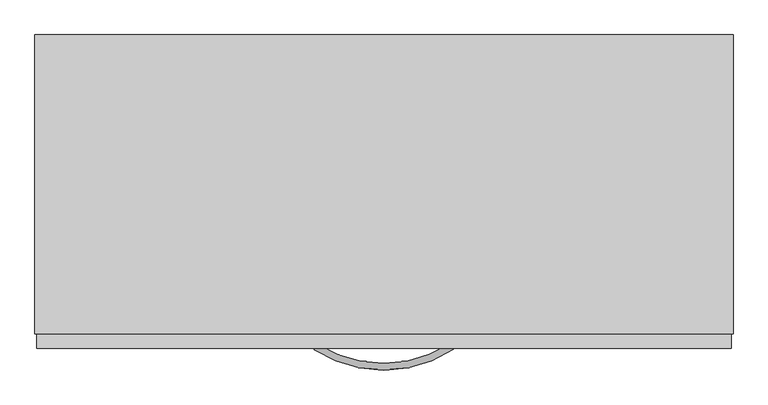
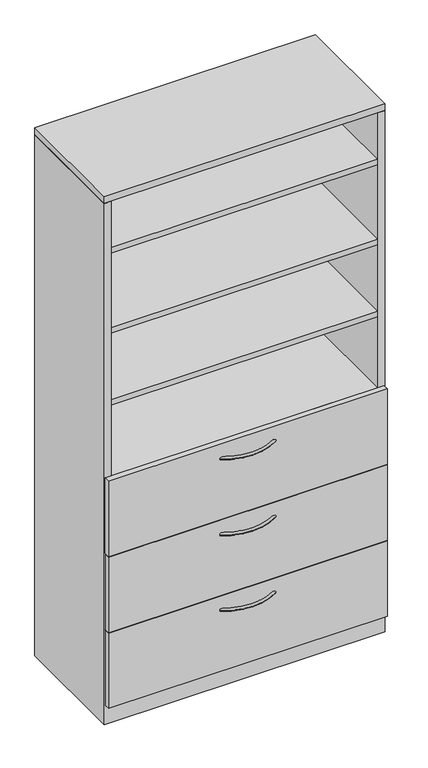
"""IFC4 building model written with IfcOpenShell, lengths in millimetres: furniture geometry, Steelcase - Universal Storage - Cabinet - Combination - Proud Steel : 83 1/2H - Open Cabinet/3 Drawers - 18 7/8D x 42W."""

import ifcopenshell
import ifcopenshell.guid

model = None  # the IFC model being written
_history = None  # IfcOwnerHistory: only IFC2X3 demands one
_inside = {}  # id of a spatial element -> (the spatial element, [elements in it])
_under = {}  # id of a project, library or spatial element -> (it, [spatial elements below it])
_declared = {}  # id of a project -> (the project, [libraries it declares])
_typed = {}  # id of a type object -> (the type object, [elements of that type])
_made_of = {}  # id of a material, layer set ... -> (it, [elements and type objects made of it])


def new_model(schema):
    """Start an empty IFC model of exactly this schema.

    Asked for "IFC4X3", IfcOpenShell would pick the latest addendum, in which some entities
    have other attributes; the version numbers below select the first issue.
    IFC2X3 requires an IfcOwnerHistory on every rooted entity: one is made here for all.
    """
    global model, _history
    if schema == "IFC4X3":
        model = ifcopenshell.file(schema_version=(4, 3, 0, 0))
    else:
        model = ifcopenshell.file(schema=schema)
    _inside.clear()
    _under.clear()
    _declared.clear()
    _typed.clear()
    _made_of.clear()
    _history = None
    if model.schema == "IFC2X3":
        org = make("IfcOrganization", Name="unknown")
        user = make(
            "IfcPersonAndOrganization",
            ThePerson=make("IfcPerson", FamilyName="unknown"),
            TheOrganization=org,
        )
        app = make(
            "IfcApplication",
            ApplicationDeveloper=org,
            Version="unknown",
            ApplicationFullName="unknown",
            ApplicationIdentifier="unknown",
        )
        _history = make(
            "IfcOwnerHistory",
            OwningUser=user,
            OwningApplication=app,
            ChangeAction="ADDED",
            CreationDate=0,
        )
    return model


def make(cls, **values):
    """One entity of the class cls with the attributes given. An attribute that is None is left unset."""
    return model.create_entity(
        cls, **{name: value for name, value in values.items() if value is not None}
    )


def rooted(cls, **values):
    """An entity with a GlobalId (a new one), such as an element, a storey or a relation."""
    return make(cls, GlobalId=ifcopenshell.guid.new(), OwnerHistory=_history, **values)


def si_unit(unit_type, name, prefix=None):
    """IfcSIUnit, for example si_unit("LENGTHUNIT", "METRE", prefix="MILLI")."""
    return make("IfcSIUnit", UnitType=unit_type, Prefix=prefix, Name=name)


def assignment(units):
    """IfcUnitAssignment: the units of a project."""
    return None if units is None else make("IfcUnitAssignment", Units=units)


def point(xyz):
    """IfcCartesianPoint."""
    return None if xyz is None else make("IfcCartesianPoint", Coordinates=xyz)


def direction(xyz):
    """IfcDirection."""
    return None if xyz is None else make("IfcDirection", DirectionRatios=xyz)


def frame(location, z_axis=None, x_axis=None):
    """IfcAxis2Placement3D, a coordinate frame: its origin and axes. An axis left out is left unset."""
    return make(
        "IfcAxis2Placement3D",
        Location=point(location),
        Axis=direction(z_axis),
        RefDirection=direction(x_axis),
    )


def origin():
    """The frame at (0, 0, 0) with its axes left unset."""
    return frame((0.0, 0.0, 0.0))


def place(relative_to, where):
    """IfcLocalPlacement: puts the frame where relative to a parent placement (None: the world)."""
    return make(
        "IfcLocalPlacement", PlacementRelTo=relative_to, RelativePlacement=where
    )


def context(
    kind, dimensions, precision=None, world=None, true_north=None, identifier=None
):
    """IfcGeometricRepresentationContext, for example the 3D "Model" context."""
    return make(
        "IfcGeometricRepresentationContext",
        ContextIdentifier=identifier,
        ContextType=kind,
        CoordinateSpaceDimension=dimensions,
        Precision=precision,
        WorldCoordinateSystem=world,
        TrueNorth=true_north,
    )


def project(units=None, contexts=None):
    """IfcProject with its units and contexts."""
    return rooted(
        "IfcProject",
        Name="project",
        RepresentationContexts=contexts,
        UnitsInContext=assignment(units),
    )


def spatial(cls, under=None, at=None, **own):
    """A site, building, storey or space (cls), placed at a placement, below another one or the project."""
    s = rooted(cls, ObjectPlacement=at, **own)
    if under is not None:
        _under.setdefault(under.id(), (under, []))[1].append(s)
    return s


def polyline(points):
    """IfcPolyline through the points."""
    return make("IfcPolyline", Points=[point(p) for p in points])


def circle_curve(where, radius):
    """IfcCircle in the frame where."""
    return make("IfcCircle", Position=where, Radius=radius)


def ellipse_curve(where, semi_axis1, semi_axis2):
    """IfcEllipse in the frame where."""
    return make(
        "IfcEllipse", Position=where, SemiAxis1=semi_axis1, SemiAxis2=semi_axis2
    )


def trimmed(basis, trim1, trim2, sense, master):
    """IfcTrimmedCurve: the piece of a basis curve between two trims."""
    return make(
        "IfcTrimmedCurve",
        BasisCurve=basis,
        Trim1=trim1,
        Trim2=trim2,
        SenseAgreement=sense,
        MasterRepresentation=master,
    )


def outline(outer, holes=None, kind="AREA"):
    """IfcArbitraryClosedProfileDef: a profile drawn as a closed curve; with holes, ...WithVoids."""
    if holes is None:
        return make("IfcArbitraryClosedProfileDef", ProfileType=kind, OuterCurve=outer)
    return make(
        "IfcArbitraryProfileDefWithVoids",
        ProfileType=kind,
        OuterCurve=outer,
        InnerCurves=holes,
    )


def extrude(swept, where, along, depth):
    """IfcExtrudedAreaSolid: the profile swept, set in the frame where, extruded along a direction by depth."""
    return make(
        "IfcExtrudedAreaSolid",
        SweptArea=swept,
        Position=where,
        ExtrudedDirection=direction(along),
        Depth=depth,
    )


def faces_of(points, faces, orient=None, outer=None):
    """IfcFace entities. A face is a list of loops; a loop is a list of indices into points, from 0.

    orient and outer hold one flag for each loop. By default every Orientation is true, the
    first loop of a face is its IfcFaceOuterBound and the others are IfcFaceBound.
    """
    made = []
    for i, loops in enumerate(faces):
        bounds = []
        for j, loop in enumerate(loops):
            is_outer = j == 0 if outer is None else outer[i][j]
            bounds.append(
                make(
                    "IfcFaceOuterBound" if is_outer else "IfcFaceBound",
                    Bound=make("IfcPolyLoop", Polygon=[points[k] for k in loop]),
                    Orientation=True if orient is None else orient[i][j],
                )
            )
        made.append(make("IfcFace", Bounds=bounds))
    return made


def faceted_brep(points, faces, orient=None, outer=None, voids=None):
    """IfcFacetedBrep: a solid bounded by flat faces; with voids (closed shells), ...WithVoids."""
    shared = [point(p) for p in points]
    hull = make("IfcClosedShell", CfsFaces=faces_of(shared, faces, orient, outer))
    if voids is None:
        return make("IfcFacetedBrep", Outer=hull)
    return make(
        "IfcFacetedBrepWithVoids",
        Outer=hull,
        Voids=[
            make(cls, CfsFaces=faces_of(shared, fs, o, b)) for cls, fs, o, b in voids
        ],
    )


def shape(context_of_items, identifier, shape_type, items):
    """IfcShapeRepresentation: the items that make up one representation, for example the "Body"."""
    return make(
        "IfcShapeRepresentation",
        ContextOfItems=context_of_items,
        RepresentationIdentifier=identifier,
        RepresentationType=shape_type,
        Items=items,
    )


def source(mapping_origin, context_of_items, identifier, shape_type, items):
    """IfcRepresentationMap: a shape defined once, which mapped items show again and again."""
    return make(
        "IfcRepresentationMap",
        MappingOrigin=mapping_origin,
        MappedRepresentation=shape(context_of_items, identifier, shape_type, items),
    )


def transform(
    local_origin,
    x_axis=None,
    y_axis=None,
    z_axis=None,
    scale=None,
    scale2=None,
    scale3=None,
    uniform=True,
):
    """IfcCartesianTransformationOperator3D, or its non-uniform kind. x_axis, y_axis, z_axis: its Axis1, 2, 3."""
    if uniform:
        return make(
            "IfcCartesianTransformationOperator3D",
            Axis1=direction(x_axis),
            Axis2=direction(y_axis),
            LocalOrigin=point(local_origin),
            Scale=scale,
            Axis3=direction(z_axis),
        )
    return make(
        "IfcCartesianTransformationOperator3DnonUniform",
        Axis1=direction(x_axis),
        Axis2=direction(y_axis),
        LocalOrigin=point(local_origin),
        Scale=scale,
        Axis3=direction(z_axis),
        Scale2=scale2,
        Scale3=scale3,
    )


def mapped(mapping_source, mapping_target):
    """IfcMappedItem: shows the shape of a source again, moved by a transform."""
    return make(
        "IfcMappedItem", MappingSource=mapping_source, MappingTarget=mapping_target
    )


def made_of(thing, what):
    """Note that an element or type object is made of a material, layer set ...; save() writes the relation."""
    if what is not None:
        _made_of.setdefault(what.id(), (what, []))[1].append(thing)
    return thing


def element(
    cls,
    number,
    at=None,
    inside=None,
    cuts=None,
    type_object=None,
    material=None,
    context=None,
    identifier="Body",
    shape_type=None,
    held_by="IfcProductDefinitionShape",
    body=None,
    shapes=None,
    **own,
):
    """One element of the class cls, such as IfcWall. Its Tag is "e" and its number.

    at: its placement. inside: the storey or other place that contains it. cuts: it is an
    opening in that element (IfcRelVoidsElement). A single representation is given by context,
    identifier, shape_type and body (its items); several are given by shapes. held_by: the class
    of the entity that holds the representations. save() writes the other relations.
    """
    e = rooted(cls, Tag="e%d" % number, ObjectPlacement=at, **own)
    if body is not None:
        shapes = [shape(context, identifier, shape_type, body)]
    if shapes is not None:
        e.Representation = make(held_by, Representations=shapes)
    if inside is not None:
        _inside.setdefault(inside.id(), (inside, []))[1].append(e)
    if cuts is not None:
        rooted(
            "IfcRelVoidsElement", RelatingBuildingElement=cuts, RelatedOpeningElement=e
        )
    if type_object is not None:
        _typed.setdefault(type_object.id(), (type_object, []))[1].append(e)
    return made_of(e, material)


def aggregate(whole, parts):
    """IfcRelAggregates: a whole, such as a stair, and the parts it consists of."""
    return rooted("IfcRelAggregates", RelatingObject=whole, RelatedObjects=parts)


def save(model, path):
    """Write the relations noted so far, then the file.

    IfcRelAggregates (storeys below a building ...), IfcRelContainedInSpatialStructure (elements
    in a storey), IfcRelDefinesByType, IfcRelAssociatesMaterial and IfcRelDeclares: one each for
    every whole, place, type object, material and project.
    """
    for whole, parts in _under.values():
        aggregate(whole, parts)
    for where, things in _inside.values():
        rooted(
            "IfcRelContainedInSpatialStructure",
            RelatedElements=things,
            RelatingStructure=where,
        )
    for kind, things in _typed.values():
        rooted("IfcRelDefinesByType", RelatedObjects=things, RelatingType=kind)
    for what, things in _made_of.values():
        rooted("IfcRelAssociatesMaterial", RelatedObjects=things, RelatingMaterial=what)
    for by, libraries in _declared.values():
        rooted("IfcRelDeclares", RelatingContext=by, RelatedDefinitions=libraries)
    model.write(path)


def plane_surface(at):
    """IfcPlane: the flat surface through the origin of the frame at, square to its z axis."""
    return make("IfcPlane", Position=at)


def revolved_surface(curve, axis_point, axis_direction):
    """IfcSurfaceOfRevolution: the curve turned about the line through axis_point along axis_direction."""
    return make(
        "IfcSurfaceOfRevolution",
        SweptCurve=make("IfcArbitraryOpenProfileDef", ProfileType="CURVE", Curve=curve),
        AxisPosition=make("IfcAxis1Placement", Location=point(axis_point), Axis=direction(axis_direction)),
    )


def advanced_brep(points, edges, surfaces, faces):
    """IfcAdvancedBrep: a solid bounded by faces that lie on surfaces and meet in shared edges.

    An edge is (start, end): straight between two places in points (the first is 0);
    or (start, end, curve); or (start, end, curve, False) where it runs against its curve.
    A face is (place in surfaces, loops), or (place, loops, False) where it looks against
    its surface's normal. A loop lists edges by number (the first is 1), with a minus sign
    where the edge is run from its end to its start. The first loop is the outer one.
    """
    corners = [point(p) for p in points]
    vertices = [make("IfcVertexPoint", VertexGeometry=c) for c in corners]
    made = []
    for start, end, *more in edges:
        made.append(
            make(
                "IfcEdgeCurve",
                EdgeStart=vertices[start],
                EdgeEnd=vertices[end],
                EdgeGeometry=more[0] if more else make("IfcPolyline", Points=[corners[start], corners[end]]),
                SameSense=more[1] if len(more) > 1 else True,
            )
        )
    hull = []
    for where, loops, *sense in faces:
        bounds = []
        for j, loop in enumerate(loops):
            ring = [make("IfcOrientedEdge", EdgeElement=made[abs(k) - 1], Orientation=k > 0) for k in loop]
            bounds.append(
                make(
                    "IfcFaceOuterBound" if j == 0 else "IfcFaceBound",
                    Bound=make("IfcEdgeLoop", EdgeList=ring),
                    Orientation=True,
                )
            )
        hull.append(make("IfcAdvancedFace", Bounds=bounds, FaceSurface=surfaces[where], SameSense=sense[0] if sense else True))
    return make("IfcAdvancedBrep", Outer=make("IfcClosedShell", CfsFaces=hull))


def furniture_7ffb7491(model_context):
    return source(origin(), model_context, "Body", "SolidModel", [
        extrude(outline(polyline([(1041.4000242, -25.4000008), (1041.4000242, -454.0250121), (25.4000008, -454.0250121), (25.4000008, -25.4000008), (1041.4000242, -25.4000008)])), frame((0.0, 0.0, 965.2000242), z_axis=(0.0, 0.0, 1.0), x_axis=(1.0, 0.0, 0.0)), (0.0, 0.0, 1.0), 22.2249516),
        extrude(outline(polyline([(1041.4000242, -25.4000008), (1041.4000242, -454.0250121), (25.4000008, -454.0250121), (25.4000008, -25.4000008), (1041.4000242, -25.4000008)])), frame((0.0, 0.0, 1273.1750484), z_axis=(0.0, 0.0, 1.0), x_axis=(1.0, 0.0, 0.0)), (0.0, 0.0, 1.0), 22.2249516),
        extrude(outline(polyline([(1041.4000242, -25.4000008), (1041.4000242, -454.0250121), (25.4000008, -454.0250121), (25.4000008, -25.4000008), (1041.4000242, -25.4000008)])), frame((0.0, 0.0, 1562.7350484), z_axis=(0.0, 0.0, 1.0), x_axis=(1.0, 0.0, 0.0)), (0.0, 0.0, 1.0), 22.2249516),
        extrude(outline(polyline([(1041.4000242, -25.4000008), (1041.4000242, -454.0250121), (25.4000008, -454.0250121), (25.4000008, -25.4000008), (1041.4000242, -25.4000008)])), frame((0.0, 0.0, 1882.7750484), z_axis=(0.0, 0.0, 1.0), x_axis=(1.0, 0.0, 0.0)), (0.0, 0.0, 1.0), 22.2249516),
        advanced_brep(
        [(426.8245932, -481.5705994, 323.56425), (432.2977519, -473.0108019, 323.56425), (639.1315136, -481.1337636, 323.56425), (633.6231767, -472.5965612, 323.56425)],
        [
            (0, 1, circle_curve(frame((429.5611726, -477.2907007, 323.56425), z_axis=(-0.8424997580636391, 0.5386967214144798, 0.0), x_axis=(0.5386967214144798, 0.8424997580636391, 0.0)), 5.08)),
            (1, 0, circle_curve(frame((429.5611726, -477.2907007, 323.56425), z_axis=(-0.8424997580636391, 0.5386967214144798, 0.0), x_axis=(0.5386967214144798, 0.8424997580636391, 0.0)), 5.08)),
            (2, 3, circle_curve(frame((636.3773452, -476.8651624, 323.56425), z_axis=(0.8402758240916, 0.5421591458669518, 0.0), x_axis=(-0.5421591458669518, 0.8402758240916, 0.0)), 5.08)),
            (3, 2, circle_curve(frame((636.3773452, -476.8651624, 323.56425), z_axis=(0.8402758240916, 0.5421591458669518, 0.0), x_axis=(-0.5421591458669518, 0.8402758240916, 0.0)), 5.08)),
            (3, 1, circle_curve(frame((532.6380004, -316.0827352, 323.56425), z_axis=(0.0, 0.0, -1.0), x_axis=(-0.5386967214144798, -0.8424997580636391, 0.0)), 186.2648211)),
            (0, 2, circle_curve(frame((532.6380004, -316.0827352, 323.56425), z_axis=(0.0, 0.0, 1.0), x_axis=(-0.5386967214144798, -0.8424997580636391, 0.0)), 196.4248211)),
        ],
        [
            plane_surface(frame((429.9794521, -476.6365286, 324.358), z_axis=(-0.8424997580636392, 0.5386967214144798, 0.0), x_axis=(0.0, 0.0, 1.0))),
            plane_surface(frame((635.9563772, -476.2127171, 324.358), z_axis=(0.8402758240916, 0.5421591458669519, 0.0), x_axis=(0.0, 0.0, 1.0))),
            revolved_surface(trimmed(ellipse_curve(frame((429.5611726, -477.2907007, 323.56425), z_axis=(-0.8424997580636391, 0.5386967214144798, 0.0), x_axis=(0.5386967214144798, 0.8424997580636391, 0.0)), 5.08, 5.08), [point((426.8245932, -481.5705994, 323.56425))], [point((432.2977519, -473.0108019, 323.56425))], True, "CARTESIAN"), (532.6380004, -316.0827352, 324.358), (0.0, 0.0, 1.0)),
            revolved_surface(trimmed(ellipse_curve(frame((429.5611726, -477.2907007, 323.56425), z_axis=(-0.8424997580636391, 0.5386967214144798, 0.0), x_axis=(0.5386967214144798, 0.8424997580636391, 0.0)), 5.08, 5.08), [point((432.2977519, -473.0108019, 323.56425))], [point((426.8245932, -481.5705994, 323.56425))], True, "CARTESIAN"), (532.6380004, -316.0827352, 324.358), (0.0, 0.0, 1.0)),
        ],
        [
            (0, [[1, 2]]),
            (1, [[3, 4]]),
            (2, [[5, -1, 6, -4]]),
            (3, [[-6, -2, -5, -3]]),
        ],
    ),
        advanced_brep(
        [(426.8245932, -481.5705994, 627.85625), (432.2977519, -473.0108019, 627.85625), (639.1315136, -481.1337636, 627.85625), (633.6231767, -472.5965612, 627.85625)],
        [
            (0, 1, circle_curve(frame((429.5611726, -477.2907007, 627.85625), z_axis=(-0.8424997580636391, 0.5386967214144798, 0.0), x_axis=(0.5386967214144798, 0.8424997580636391, 0.0)), 5.08)),
            (1, 0, circle_curve(frame((429.5611726, -477.2907007, 627.85625), z_axis=(-0.8424997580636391, 0.5386967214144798, 0.0), x_axis=(0.5386967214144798, 0.8424997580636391, 0.0)), 5.08)),
            (2, 3, circle_curve(frame((636.3773452, -476.8651624, 627.85625), z_axis=(0.8402758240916, 0.5421591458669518, 0.0), x_axis=(-0.5421591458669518, 0.8402758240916, 0.0)), 5.08)),
            (3, 2, circle_curve(frame((636.3773452, -476.8651624, 627.85625), z_axis=(0.8402758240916, 0.5421591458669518, 0.0), x_axis=(-0.5421591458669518, 0.8402758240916, 0.0)), 5.08)),
            (3, 1, circle_curve(frame((532.6380004, -316.0827352, 627.85625), z_axis=(0.0, 0.0, -1.0), x_axis=(-0.5386967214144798, -0.8424997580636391, 0.0)), 186.2648211)),
            (0, 2, circle_curve(frame((532.6380004, -316.0827352, 627.85625), z_axis=(0.0, 0.0, 1.0), x_axis=(-0.5386967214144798, -0.8424997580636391, 0.0)), 196.4248211)),
        ],
        [
            plane_surface(frame((429.9794521, -476.6365286, 628.65), z_axis=(-0.8424997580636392, 0.5386967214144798, 0.0), x_axis=(0.0, 0.0, 1.0))),
            plane_surface(frame((635.9563772, -476.2127171, 628.65), z_axis=(0.8402758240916, 0.5421591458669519, 0.0), x_axis=(0.0, 0.0, 1.0))),
            revolved_surface(trimmed(ellipse_curve(frame((429.5611726, -477.2907007, 627.85625), z_axis=(-0.8424997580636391, 0.5386967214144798, 0.0), x_axis=(0.5386967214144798, 0.8424997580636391, 0.0)), 5.08, 5.08), [point((426.8245932, -481.5705994, 627.85625))], [point((432.2977519, -473.0108019, 627.85625))], True, "CARTESIAN"), (532.6380004, -316.0827352, 628.65), (0.0, 0.0, 1.0)),
            revolved_surface(trimmed(ellipse_curve(frame((429.5611726, -477.2907007, 627.85625), z_axis=(-0.8424997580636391, 0.5386967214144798, 0.0), x_axis=(0.5386967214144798, 0.8424997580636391, 0.0)), 5.08, 5.08), [point((432.2977519, -473.0108019, 627.85625))], [point((426.8245932, -481.5705994, 627.85625))], True, "CARTESIAN"), (532.6380004, -316.0827352, 628.65), (0.0, 0.0, 1.0)),
        ],
        [
            (0, [[1, 2]]),
            (1, [[3, 4]]),
            (2, [[5, -1, 6, -4]]),
            (3, [[-6, -2, -5, -3]]),
        ],
    ),
        extrude(outline(polyline([(1063.6225413, -479.552), (3.1725353, -479.552), (3.1725353, -457.3261219), (1063.6225413, -457.3261219), (1063.6225413, -479.552)])), frame((0.0, 0.0, 687.3240349), z_axis=(0.0, 0.0, 1.0), x_axis=(1.0, 0.0, 0.0)), (0.0, 0.0, 1.0), 303.2759651),
        advanced_brep(
        [(426.8245932, -481.5705994, 932.65625), (432.2977519, -473.0108019, 932.65625), (639.1315136, -481.1337636, 932.65625), (633.6231767, -472.5965612, 932.65625)],
        [
            (0, 1, circle_curve(frame((429.5611726, -477.2907007, 932.65625), z_axis=(-0.8424997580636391, 0.5386967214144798, 0.0), x_axis=(0.5386967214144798, 0.8424997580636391, 0.0)), 5.08)),
            (1, 0, circle_curve(frame((429.5611726, -477.2907007, 932.65625), z_axis=(-0.8424997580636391, 0.5386967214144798, 0.0), x_axis=(0.5386967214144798, 0.8424997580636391, 0.0)), 5.08)),
            (2, 3, circle_curve(frame((636.3773452, -476.8651624, 932.65625), z_axis=(0.8402758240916, 0.5421591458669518, 0.0), x_axis=(-0.5421591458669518, 0.8402758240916, 0.0)), 5.08)),
            (3, 2, circle_curve(frame((636.3773452, -476.8651624, 932.65625), z_axis=(0.8402758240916, 0.5421591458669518, 0.0), x_axis=(-0.5421591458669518, 0.8402758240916, 0.0)), 5.08)),
            (3, 1, circle_curve(frame((532.6380004, -316.0827352, 932.65625), z_axis=(0.0, 0.0, -1.0), x_axis=(-0.5386967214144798, -0.8424997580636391, 0.0)), 186.2648211)),
            (0, 2, circle_curve(frame((532.6380004, -316.0827352, 932.65625), z_axis=(0.0, 0.0, 1.0), x_axis=(-0.5386967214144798, -0.8424997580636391, 0.0)), 196.4248211)),
        ],
        [
            plane_surface(frame((429.9794521, -476.6365286, 933.45), z_axis=(-0.8424997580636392, 0.5386967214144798, 0.0), x_axis=(0.0, 0.0, 1.0))),
            plane_surface(frame((635.9563772, -476.2127171, 933.45), z_axis=(0.8402758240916, 0.5421591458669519, 0.0), x_axis=(0.0, 0.0, 1.0))),
            revolved_surface(trimmed(ellipse_curve(frame((429.5611726, -477.2907007, 932.65625), z_axis=(-0.8424997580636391, 0.5386967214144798, 0.0), x_axis=(0.5386967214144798, 0.8424997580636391, 0.0)), 5.08, 5.08), [point((426.8245932, -481.5705994, 932.65625))], [point((432.2977519, -473.0108019, 932.65625))], True, "CARTESIAN"), (532.6380004, -316.0827352, 933.45), (0.0, 0.0, 1.0)),
            revolved_surface(trimmed(ellipse_curve(frame((429.5611726, -477.2907007, 932.65625), z_axis=(-0.8424997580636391, 0.5386967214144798, 0.0), x_axis=(0.5386967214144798, 0.8424997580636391, 0.0)), 5.08, 5.08), [point((432.2977519, -473.0108019, 932.65625))], [point((426.8245932, -481.5705994, 932.65625))], True, "CARTESIAN"), (532.6380004, -316.0827352, 933.45), (0.0, 0.0, 1.0)),
        ],
        [
            (0, [[1, 2]]),
            (1, [[3, 4]]),
            (2, [[5, -1, 6, -4]]),
            (3, [[-6, -2, -5, -3]]),
        ],
    ),
        faceted_brep([(25.4000008, -457.3261219, 76.2), (1041.4000242, -457.3261219, 76.2), (1041.4000242, -25.4000008, 76.2), (25.4000008, -25.4000008, 76.2), (1066.8, 0.0, 0.0), (1066.8, -457.3261219, 0.0), (0.0, -457.3261219, 0.0), (0.0, 0.0, 0.0), (0.0, 0.0, 2093.976), (1066.8, 0.0, 2093.976), (0.0, -457.3261219, 2093.976), (1066.8, -457.3261219, 2093.976), (1041.4000242, -457.3261219, 2093.976), (25.4000008, -457.3261219, 2093.976), (1041.4000242, -25.4000008, 2093.976), (25.4000008, -25.4000008, 2093.976)], [[[0, 1, 2, 3]], [[4, 5, 6, 7]], [[4, 7, 8, 9]], [[8, 7, 6, 10]], [[10, 6, 5, 11, 12, 1, 0, 13]], [[11, 5, 4, 9]], [[14, 12, 11, 9, 8, 10, 13, 15]], [[12, 14, 2, 1]], [[15, 13, 0, 3]], [[14, 15, 3, 2]]]),
        extrude(outline(polyline([(1063.6225413, -479.552), (3.1725353, -479.552), (3.1725353, -457.3261219), (1063.6225413, -457.3261219), (1063.6225413, -479.552)])), frame((0.0, 0.0, 77.724), z_axis=(0.0, 0.0, 1.0), x_axis=(1.0, 0.0, 0.0)), (0.0, 0.0, 1.0), 303.276),
        extrude(outline(polyline([(1063.6225413, -479.552), (3.1725353, -479.552), (3.1725353, -457.3261219), (1063.6225413, -457.3261219), (1063.6225413, -479.552)])), frame((0.0, 0.0, 382.524), z_axis=(0.0, 0.0, 1.0), x_axis=(1.0, 0.0, 0.0)), (0.0, 0.0, 1.0), 303.276),
        extrude(outline(polyline([(1066.8, 0.0), (1066.8, -457.3261219), (0.0, -457.3261219), (0.0, 0.0), (1066.8, 0.0)])), frame((0.0, 0.0, 2095.4999516), z_axis=(0.0, 0.0, 1.0), x_axis=(1.0, 0.0, 0.0)), (0.0, 0.0, 1.0), 25.4000484),
    ])


if __name__ == "__main__":
    model = new_model("IFC4")
    model_context = context("Model", 3, world=origin())
    ifc_project = project(units=[si_unit("LENGTHUNIT", "METRE", prefix="MILLI")], contexts=[model_context])
    site = spatial("IfcSite", under=ifc_project)
    building = spatial("IfcBuilding", under=site)
    placement = place(None, origin())
    furniture_shape = furniture_7ffb7491(model_context)
    element("IfcFurniture", 1, ObjectType="Steelcase - Universal Storage - Cabinet - Combination - Proud Steel : 83 1/2H - Open Cabinet/3 Drawers - 18 7/8D x 42W", at=placement, inside=building, context=model_context, shape_type="MappedRepresentation", body=[
        mapped(furniture_shape, transform((0.0, 0.0, 0.0), x_axis=(1.0, 0.0, 0.0), y_axis=(0.0, 1.0, 0.0), z_axis=(0.0, 0.0, 1.0))),
    ])
    save(model, "model.ifc")
